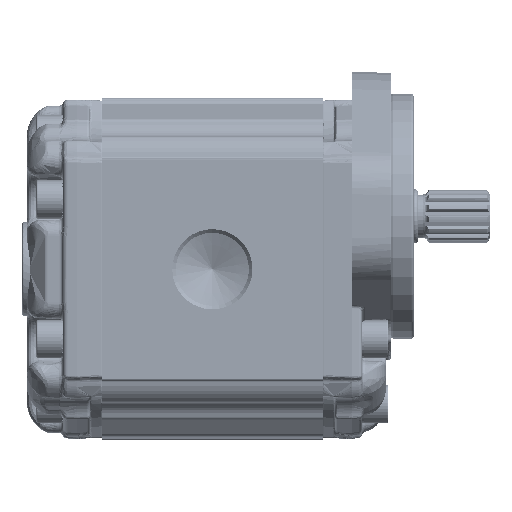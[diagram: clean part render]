
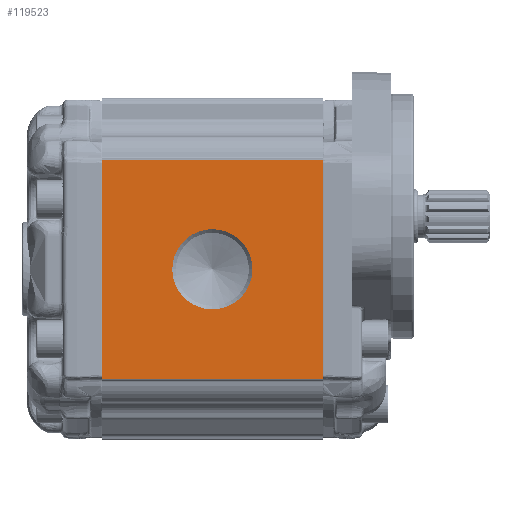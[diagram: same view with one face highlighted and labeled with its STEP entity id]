
A CAD part, left-side view. The second image highlights one B-rep face of the part: STEP entity #119523.
In plain terms, the highlighted planar face has unit normal (-1, 0, 0).
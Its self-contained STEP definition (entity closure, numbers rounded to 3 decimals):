
#7404=PLANE('',#125930);
#10190=LINE('',#217672,#15009);
#10201=LINE('',#217757,#15020);
#10239=LINE('',#217857,#15058);
#10240=LINE('',#217858,#15059);
#15009=VECTOR('',#139343,1000.);
#15020=VECTOR('',#139418,1000.);
#15058=VECTOR('',#139536,1000.);
#15059=VECTOR('',#139537,1000.);
#30766=ORIENTED_EDGE('',*,*,#52044,.T.);
#30767=ORIENTED_EDGE('',*,*,#51948,.F.);
#30768=ORIENTED_EDGE('',*,*,#52045,.T.);
#30769=ORIENTED_EDGE('',*,*,#51990,.F.);
#30770=ORIENTED_EDGE('',*,*,#52046,.T.);
#51948=EDGE_CURVE('',#63468,#63469,#10190,.T.);
#51990=EDGE_CURVE('',#63510,#63511,#10201,.T.);
#52044=EDGE_CURVE('',#63532,#63532,#70230,.F.);
#52045=EDGE_CURVE('',#63468,#63511,#10239,.F.);
#52046=EDGE_CURVE('',#63510,#63469,#10240,.F.);
#63468=VERTEX_POINT('',#217671);
#63469=VERTEX_POINT('',#217673);
#63510=VERTEX_POINT('',#217756);
#63511=VERTEX_POINT('',#217758);
#63532=VERTEX_POINT('',#217856);
#70230=CIRCLE('',#125931,16.646);
#74586=EDGE_LOOP('',(#30766));
#74587=EDGE_LOOP('',(#30767,#30768,#30769,#30770));
#79735=FACE_BOUND('',#74586,.T.);
#79736=FACE_BOUND('',#74587,.T.);
#119523=ADVANCED_FACE('',(#79735,#79736),#7404,.T.);
#125930=AXIS2_PLACEMENT_3D('',#217854,#139532,#139533);
#125931=AXIS2_PLACEMENT_3D('',#217855,#139534,#139535);
#139343=DIRECTION('',(0.,0.,1.));
#139418=DIRECTION('',(0.,0.,-1.));
#139532=DIRECTION('',(-1.,0.,0.));
#139533=DIRECTION('',(0.,0.,-1.));
#139534=DIRECTION('',(-1.,0.,0.));
#139535=DIRECTION('',(0.,0.,-1.));
#139536=DIRECTION('',(0.,1.,0.));
#139537=DIRECTION('',(0.,-1.,0.));
#217671=CARTESIAN_POINT('',(-57.5,92.,-45.5));
#217672=CARTESIAN_POINT('',(-57.5,92.,-84.819));
#217673=CARTESIAN_POINT('',(-57.5,92.,45.5));
#217756=CARTESIAN_POINT('',(-57.5,0.,45.5));
#217757=CARTESIAN_POINT('',(-57.5,0.,-44.978));
#217758=CARTESIAN_POINT('',(-57.5,0.,-45.5));
#217854=CARTESIAN_POINT('',(-57.5,-138.655,-84.819));
#217855=CARTESIAN_POINT('',(-57.5,46.,0.));
#217856=CARTESIAN_POINT('',(-57.5,46.,-16.646));
#217857=CARTESIAN_POINT('',(-57.5,-138.655,-45.5));
#217858=CARTESIAN_POINT('',(-57.5,-138.655,45.5));
